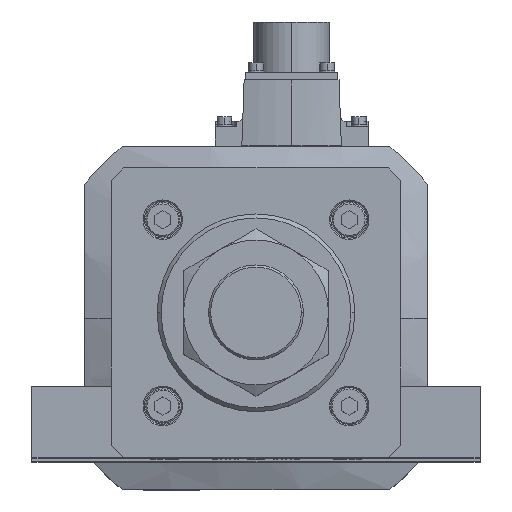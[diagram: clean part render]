
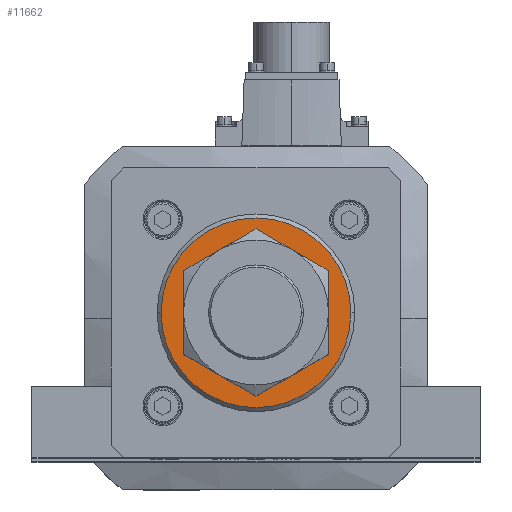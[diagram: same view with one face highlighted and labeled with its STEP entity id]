
A CAD part, top view. The second image highlights one B-rep face of the part: STEP entity #11662.
In plain terms, the highlighted planar face has unit normal (0, 0, 1).
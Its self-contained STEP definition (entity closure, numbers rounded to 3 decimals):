
#370 = CARTESIAN_POINT ( 'NONE',  ( 0., 0., 896. ) ) ;
#414 = FACE_BOUND ( 'NONE', #34343, .T. ) ;
#1696 = VERTEX_POINT ( 'NONE', #24513 ) ;
#4353 = DIRECTION ( 'NONE',  ( 1., 0., 0. ) ) ;
#4829 = DIRECTION ( 'NONE',  ( 1., 0., 0. ) ) ;
#5415 = EDGE_CURVE ( 'NONE', #19066, #33433, #16242, .T. ) ;
#6248 = DIRECTION ( 'NONE',  ( 1., 0., 0. ) ) ;
#7567 = VERTEX_POINT ( 'NONE', #26411 ) ;
#8014 = DIRECTION ( 'NONE',  ( 0., 0., 1. ) ) ;
#9956 = ORIENTED_EDGE ( 'NONE', *, *, #29800, .T. ) ;
#10332 = AXIS2_PLACEMENT_3D ( 'NONE', #33764, #13344, #31177 ) ;
#11603 = DIRECTION ( 'NONE',  ( 1., 0., 0. ) ) ;
#11662 = ADVANCED_FACE ( 'NONE', ( #414, #35104 ), #20519, .T. ) ;
#11989 = DIRECTION ( 'NONE',  ( 0., 0., 1. ) ) ;
#13344 = DIRECTION ( 'NONE',  ( 0., 0., -1. ) ) ;
#13451 = ORIENTED_EDGE ( 'NONE', *, *, #18289, .T. ) ;
#14859 = ORIENTED_EDGE ( 'NONE', *, *, #5415, .T. ) ;
#16242 = CIRCLE ( 'NONE', #23114, 36. ) ;
#17635 = ORIENTED_EDGE ( 'NONE', *, *, #30323, .T. ) ;
#18289 = EDGE_CURVE ( 'NONE', #7567, #1696, #21260, .T. ) ;
#19066 = VERTEX_POINT ( 'NONE', #25526 ) ;
#19314 = AXIS2_PLACEMENT_3D ( 'NONE', #23462, #11989, #11603 ) ;
#20519 = PLANE ( 'NONE',  #19314 ) ;
#20746 = DIRECTION ( 'NONE',  ( 0., 0., -1. ) ) ;
#21260 = CIRCLE ( 'NONE', #25122, 23. ) ;
#21556 = CARTESIAN_POINT ( 'NONE',  ( 0., 0., 896. ) ) ;
#23114 = AXIS2_PLACEMENT_3D ( 'NONE', #21556, #27276, #4353 ) ;
#23462 = CARTESIAN_POINT ( 'NONE',  ( 0., 0., 896. ) ) ;
#24354 = CIRCLE ( 'NONE', #25952, 36. ) ;
#24513 = CARTESIAN_POINT ( 'NONE',  ( -23., 0., 896. ) ) ;
#24922 = EDGE_LOOP ( 'NONE', ( #14859, #17635 ) ) ;
#25122 = AXIS2_PLACEMENT_3D ( 'NONE', #370, #20746, #6248 ) ;
#25526 = CARTESIAN_POINT ( 'NONE',  ( -36., 0., 896. ) ) ;
#25952 = AXIS2_PLACEMENT_3D ( 'NONE', #31183, #8014, #4829 ) ;
#26411 = CARTESIAN_POINT ( 'NONE',  ( 23., 0., 896. ) ) ;
#27276 = DIRECTION ( 'NONE',  ( 0., 0., 1. ) ) ;
#29800 = EDGE_CURVE ( 'NONE', #1696, #7567, #36325, .T. ) ;
#30323 = EDGE_CURVE ( 'NONE', #33433, #19066, #24354, .T. ) ;
#30720 = CARTESIAN_POINT ( 'NONE',  ( 36., 0., 896. ) ) ;
#31177 = DIRECTION ( 'NONE',  ( 1., 0., 0. ) ) ;
#31183 = CARTESIAN_POINT ( 'NONE',  ( 0., 0., 896. ) ) ;
#33433 = VERTEX_POINT ( 'NONE', #30720 ) ;
#33764 = CARTESIAN_POINT ( 'NONE',  ( 0., 0., 896. ) ) ;
#34343 = EDGE_LOOP ( 'NONE', ( #13451, #9956 ) ) ;
#35104 = FACE_OUTER_BOUND ( 'NONE', #24922, .T. ) ;
#36325 = CIRCLE ( 'NONE', #10332, 23. ) ;
